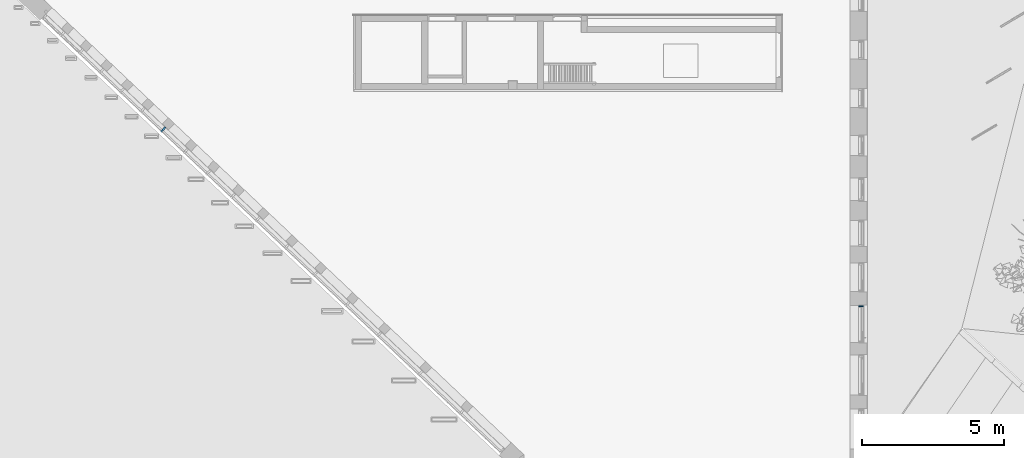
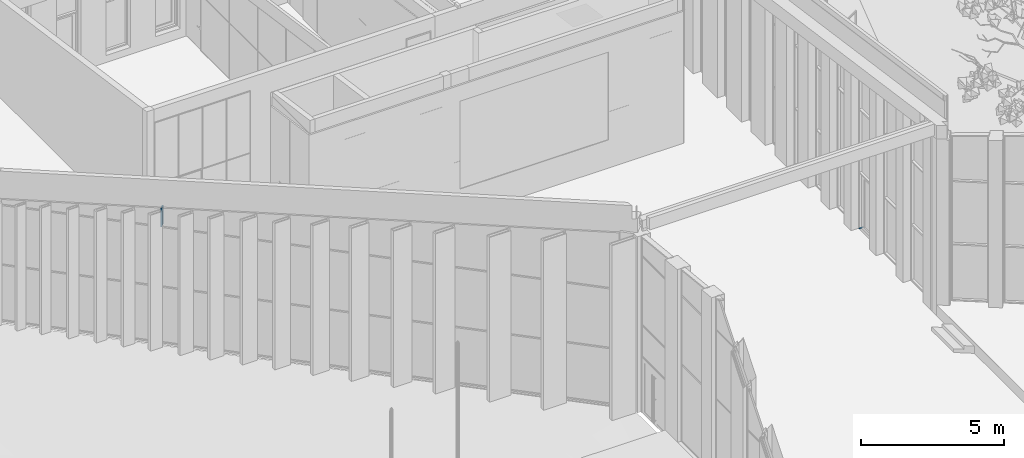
# One storey, part 85 of 246: 2 members, 2 elements without a shape of their own.
"""IFC2X3 building model written with IfcOpenShell, lengths in millimetres."""

from ifc_helpers import new_model, entity, si_unit, converted_unit, derived_unit, money_unit, direction, frame, origin_with_axes, place, context, subcontext, project, spatial, faceted_brep, material, type_object, element, aggregate, save


model = new_model("IFC2X3")

# Units and contexts
model_context = context("Model", 3, precision=0.01, world=origin_with_axes(), true_north=direction((0.0, 1.0)))
body_context = subcontext(model_context, "Body", "Model", "MODEL_VIEW")
ifc_project = project(units=[si_unit("LENGTHUNIT", "METRE", prefix="MILLI"), si_unit("AREAUNIT", "SQUARE_METRE"), si_unit("VOLUMEUNIT", "CUBIC_METRE"), converted_unit("PLANEANGLEUNIT", "DEGREE", entity("IfcPlaneAngleMeasure", 0.0174532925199), si_unit("PLANEANGLEUNIT", "RADIAN"), dimensions=[0, 0, 0, 0, 0, 0, 0]), si_unit("SOLIDANGLEUNIT", "STERADIAN"), money_unit("EUR"), converted_unit("TIMEUNIT", "Year", entity("IfcTimeMeasure", 31556926.0), si_unit("TIMEUNIT", "SECOND"), dimensions=[0, 0, 1, 0, 0, 0, 0]), si_unit("MASSUNIT", "GRAM", prefix="KILO"), si_unit("THERMODYNAMICTEMPERATUREUNIT", "DEGREE_CELSIUS"), si_unit("LUMINOUSINTENSITYUNIT", "LUMEN"), si_unit("ENERGYUNIT", "JOULE", prefix="MEGA"), derived_unit("THERMALCONDUCTANCEUNIT", [(si_unit("POWERUNIT", "WATT"), 1), (si_unit("LENGTHUNIT", "METRE"), -1), (si_unit("THERMODYNAMICTEMPERATUREUNIT", "KELVIN"), -1)]), derived_unit("SPECIFICHEATCAPACITYUNIT", [(si_unit("ENERGYUNIT", "JOULE"), 1), (si_unit("MASSUNIT", "GRAM", prefix="KILO"), -1), (si_unit("THERMODYNAMICTEMPERATUREUNIT", "KELVIN"), -1)]), derived_unit("MASSDENSITYUNIT", [(si_unit("MASSUNIT", "GRAM", prefix="KILO"), 1), (si_unit("VOLUMEUNIT", "CUBIC_METRE"), -1)])], contexts=[model_context])

# Site, building, storey
site_placement = place(None, origin_with_axes())
site = spatial("IfcSite", under=ifc_project, at=site_placement, Name="L.Koidula tn 11b", CompositionType="ELEMENT")
building_placement = place(site_placement, origin_with_axes())
building = spatial("IfcBuilding", under=site, at=building_placement, Name="Rakvere Riigigümnaasium", CompositionType="ELEMENT")
storey_placement = place(building_placement, origin_with_axes())
storey = spatial("IfcBuildingStorey", under=building, at=storey_placement, Name="1.korrus 0,00", CompositionType="ELEMENT", Elevation=0.0)

# Curtain wall, member
curtain_wall_type = type_object("IfcCurtainWallType", Name="Curtain Wall Type", PredefinedType="NOTDEFINED")
curtain_wall_1_placement = place(storey_placement, frame((47434.0004775, 49050.4555635, 0.0), z_axis=(0.0, 0.0, 1.0), x_axis=(1.0, 0.0, 0.0)))
curtain_wall_1 = element("IfcCurtainWall", 1, at=curtain_wall_1_placement, inside=storey, type_object=curtain_wall_type, Name="KLF-07-03")
ifc_material = material(Name="Alumiiniumprofiil (RAL 7021)")
member_type_1 = type_object("IfcMemberType", Name="Boundary Frame 50 x 170", PredefinedType="MULLION")
member_1_placement = place(curtain_wall_1_placement, frame((0.0, 649.99994269, 0.0), z_axis=(0.0, -1.0, 0.0), x_axis=(0.0, 0.0, 1.0)))
member_1 = element("IfcMember", 2, at=member_1_placement, type_object=member_type_1, material=ifc_material, Name="KLF-07-70-Profiilid", ObjectType="MULLION", context=body_context, shape_type="Brep", body=[
    faceted_brep([(37.0, 26.0, 40.0000353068), (40.0000353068, 26.0, 40.0000353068), (40.0000353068, 124.0, 40.0000353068), (0.0, 124.0, 40.0000353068), (0.0, -46.0, 40.0000353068), (40.0000353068, -46.0, 40.0000353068), (40.0000353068, -26.0, 40.0000353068), (37.0, -26.0, 40.0000353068), (37.0, 26.0, 37.0), (37.0, -26.0, 37.0), (0.0, -46.0, 0.0), (0.0, 124.0, 0.0)], [[[0, 1, 2, 3, 4, 5, 6, 7]], [[0, 8, 1]], [[8, 9, 6, 5, 10, 11, 2, 1]], [[2, 11, 3]], [[3, 11, 10, 4]], [[10, 5, 4]], [[9, 7, 6]], [[7, 9, 8, 0]]]),
])
aggregate(curtain_wall_1, [member_1])

curtain_wall_2_placement = place(storey_placement, frame((33997.0353268, 45217.6604975, 0.0), z_axis=(0.0, 0.0, 1.0), x_axis=(1.0, 0.0, 0.0)))
curtain_wall_2 = element("IfcCurtainWall", 3, at=curtain_wall_2_placement, inside=storey, type_object=curtain_wall_type, Name="KLF-02")
member_type_2 = type_object("IfcMemberType", Name="Mullion Frame 50 x 210", PredefinedType="MULLION")
member_2_placement = place(curtain_wall_2_placement, frame((-11252.3835523, 10659.9185922, 4950.00031279), z_axis=(0.0, 0.0, 1.0), x_axis=(0.725960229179, -0.687736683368, 0.0)))
member_2 = element("IfcMember", 4, at=member_2_placement, type_object=member_type_2, material=ifc_material, Name="KLF-55-Profiilid", ObjectType="MULLION", context=body_context, shape_type="Brep", body=[
    faceted_brep([(-12.0, 26.0, 801.072016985), (-12.0, -26.0, 801.072016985), (-25.0, -26.0, 799.790243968), (-25.0, -56.0, 799.790243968), (25.0, -56.0, 804.720140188), (25.0, -26.0, 804.720140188), (12.0, -26.0, 803.438367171), (12.0, 26.0, 803.438367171), (25.0, 26.0, 804.720140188), (25.0, 154.0, 804.720140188), (-25.0, 154.0, 799.790243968), (-25.0, 26.0, 799.790243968), (-12.0, 26.0, 0.0), (-12.0, -26.0, 0.0), (-25.0, -26.0, 0.0), (-25.0, -56.0, 0.0), (25.0, -56.0, 0.0), (25.0, -26.0, 0.0), (12.0, -26.0, 0.0), (12.0, 26.0, 0.0), (25.0, 26.0, 0.0), (25.0, 154.0, 0.0), (-25.0, 154.0, 0.0), (-25.0, 26.0, 0.0)], [[[0, 1, 2, 3, 4, 5, 6, 7, 8, 9, 10, 11]], [[0, 12, 13, 1]], [[1, 13, 14, 2]], [[14, 15, 3, 2]], [[3, 15, 16, 4]], [[17, 5, 4, 16]], [[5, 17, 18, 6]], [[7, 6, 18, 19]], [[8, 7, 19, 20]], [[8, 20, 21, 9]], [[9, 21, 22, 10]], [[11, 10, 22, 23]], [[11, 23, 12, 0]], [[13, 12, 23, 22, 21, 20, 19, 18, 17, 16, 15, 14]]]),
])
aggregate(curtain_wall_2, [member_2])

save(model, "model.ifc")
